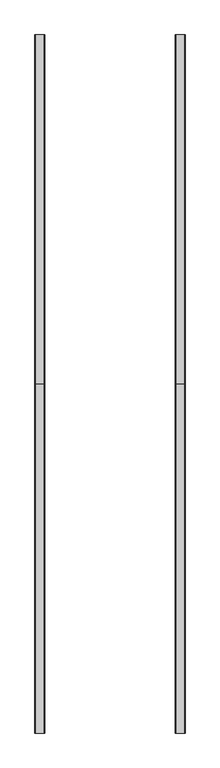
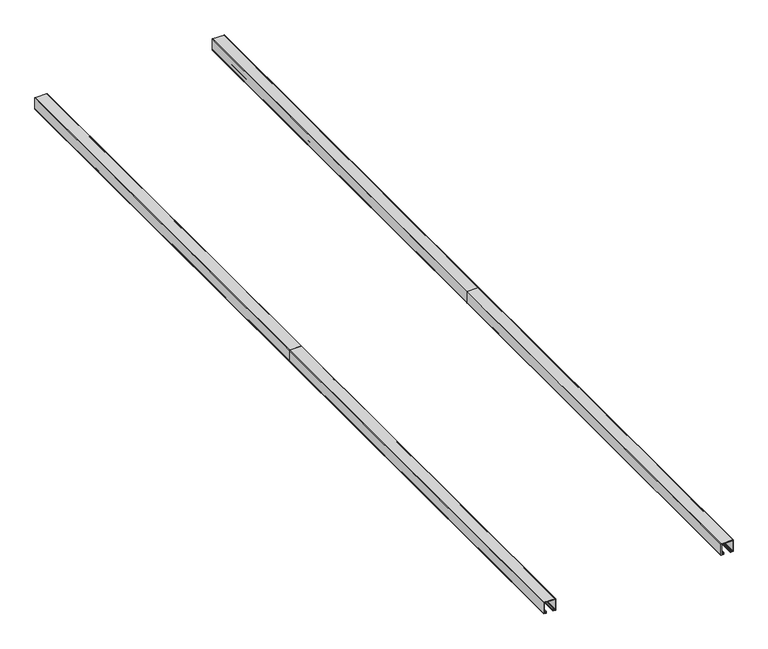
"""IFC4 building model written with IfcOpenShell, lengths in millimetres: proxy geometry, modelo_cirrus 32.3dm."""

from ifc_helpers import new_model, si_unit, point, frame, frame_2d, origin, place, context, project, spatial, polyline, circle_curve, trimmed, segment, composite_curve, outline, extrude, source, transform, mapped, element, save


def generic_models_cc1fa2ff(model_context):
    return source(origin(), model_context, "Body", "SweptSolid", [
        extrude(outline(composite_curve([segment(polyline([(273.8657165, -1040.3998374), (277.4657165, -1040.3998374)]), True, "CONTINUOUS"), segment(trimmed(circle_curve(frame_2d((277.4657165, -1041.3998374)), 1.0), [point((277.4657165, -1040.3998374))], [point((277.4657165, -1042.3998374))], False, "CARTESIAN"), True, "CONTINUOUS"), segment(polyline([(277.4657165, -1042.3998374), (272.3657165, -1042.3998374)]), True, "CONTINUOUS"), segment(trimmed(circle_curve(frame_2d((272.3657165, -1041.3998374)), 1.0), [point((272.3657165, -1042.3998374))], [point((271.3657165, -1041.3998374))], False, "CARTESIAN"), True, "CONTINUOUS"), segment(polyline([(271.3657165, -1041.3998374), (271.3657165, -1033.8498374)]), True, "CONTINUOUS"), segment(trimmed(circle_curve(frame_2d((272.3657165, -1033.8498374)), 1.0), [point((271.3657165, -1033.8498374))], [point((272.3657165, -1032.8498374))], False, "CARTESIAN"), True, "CONTINUOUS"), segment(polyline([(272.3657165, -1032.8498374), (311.6657165, -1032.8498374)]), True, "CONTINUOUS"), segment(trimmed(circle_curve(frame_2d((311.6657165, -1033.8498374)), 1.0), [point((311.6657165, -1032.8498374))], [point((312.6657165, -1033.8498374))], False, "CARTESIAN"), True, "CONTINUOUS"), segment(polyline([(312.6657165, -1033.8498374), (312.6657165, -1073.1498374)]), True, "CONTINUOUS"), segment(trimmed(circle_curve(frame_2d((311.6657165, -1073.1498374)), 1.0), [point((312.6657165, -1073.1498374))], [point((311.6657165, -1074.1498374))], False, "CARTESIAN"), True, "CONTINUOUS"), segment(polyline([(311.6657165, -1074.1498374), (272.3657165, -1074.1498374)]), True, "CONTINUOUS"), segment(trimmed(circle_curve(frame_2d((272.3657165, -1073.1498374)), 1.0), [point((272.3657165, -1074.1498374))], [point((271.3657165, -1073.1498374))], False, "CARTESIAN"), True, "CONTINUOUS"), segment(polyline([(271.3657165, -1073.1498374), (271.3657165, -1065.5998374)]), True, "CONTINUOUS"), segment(trimmed(circle_curve(frame_2d((272.3657165, -1065.5998374)), 1.0), [point((271.3657165, -1065.5998374))], [point((272.3657165, -1064.5998374))], False, "CARTESIAN"), True, "CONTINUOUS"), segment(polyline([(272.3657165, -1064.5998374), (277.4657165, -1064.5998374)]), True, "CONTINUOUS"), segment(trimmed(circle_curve(frame_2d((277.4657165, -1065.5998374)), 1.0), [point((277.4657165, -1064.5998374))], [point((277.4657165, -1066.5998374))], False, "CARTESIAN"), True, "CONTINUOUS"), segment(polyline([(277.4657165, -1066.5998374), (273.8657165, -1066.5998374)]), True, "CONTINUOUS"), segment(trimmed(circle_curve(frame_2d((273.8657165, -1067.0998374)), 0.5), [point((273.8657165, -1066.5998374))], [point((273.3657165, -1067.0998374))], True, "CARTESIAN"), True, "CONTINUOUS"), segment(polyline([(273.3657165, -1067.0998374), (273.3657165, -1071.6498374)]), True, "CONTINUOUS"), segment(trimmed(circle_curve(frame_2d((273.8657165, -1071.6498374)), 0.5), [point((273.3657165, -1071.6498374))], [point((273.8657165, -1072.1498374))], True, "CARTESIAN"), True, "CONTINUOUS"), segment(polyline([(273.8657165, -1072.1498374), (310.1657165, -1072.1498374)]), True, "CONTINUOUS"), segment(trimmed(circle_curve(frame_2d((310.1657165, -1071.6498374)), 0.5), [point((310.1657165, -1072.1498374))], [point((310.6657165, -1071.6498374))], True, "CARTESIAN"), True, "CONTINUOUS"), segment(polyline([(310.6657165, -1071.6498374), (310.6657165, -1035.3498374)]), True, "CONTINUOUS"), segment(trimmed(circle_curve(frame_2d((310.1657165, -1035.3498374)), 0.5), [point((310.6657165, -1035.3498374))], [point((310.1657165, -1034.8498374))], True, "CARTESIAN"), True, "CONTINUOUS"), segment(polyline([(310.1657165, -1034.8498374), (273.8657165, -1034.8498374)]), True, "CONTINUOUS"), segment(trimmed(circle_curve(frame_2d((273.8657165, -1035.3498374)), 0.5), [point((273.8657165, -1034.8498374))], [point((273.3657165, -1035.3498374))], True, "CARTESIAN"), True, "CONTINUOUS"), segment(polyline([(273.3657165, -1035.3498374), (273.3657165, -1039.8998374)]), True, "CONTINUOUS"), segment(trimmed(circle_curve(frame_2d((273.8657165, -1039.8998374)), 0.5), [point((273.3657165, -1039.8998374))], [point((273.8657165, -1040.3998374))], True, "CARTESIAN"), True, "CONTINUOUS")], self_intersect=False)), frame((0.0, 1715.530445, 0.0), z_axis=(0.0, 1.0, 0.0), x_axis=(0.0, 0.0, 1.0)), (0.0, 0.0, 1.0), 1498.6),
        extrude(outline(composite_curve([segment(polyline([(273.8657165, -437.1498374), (277.4657165, -437.1498374)]), True, "CONTINUOUS"), segment(trimmed(circle_curve(frame_2d((277.4657165, -438.1498374)), 1.0), [point((277.4657165, -437.1498374))], [point((277.4657165, -439.1498374))], False, "CARTESIAN"), True, "CONTINUOUS"), segment(polyline([(277.4657165, -439.1498374), (272.3657165, -439.1498374)]), True, "CONTINUOUS"), segment(trimmed(circle_curve(frame_2d((272.3657165, -438.1498374)), 1.0), [point((272.3657165, -439.1498374))], [point((271.3657165, -438.1498374))], False, "CARTESIAN"), True, "CONTINUOUS"), segment(polyline([(271.3657165, -438.1498374), (271.3657165, -430.5998374)]), True, "CONTINUOUS"), segment(trimmed(circle_curve(frame_2d((272.3657165, -430.5998374)), 1.0), [point((271.3657165, -430.5998374))], [point((272.3657165, -429.5998374))], False, "CARTESIAN"), True, "CONTINUOUS"), segment(polyline([(272.3657165, -429.5998374), (311.6657165, -429.5998374)]), True, "CONTINUOUS"), segment(trimmed(circle_curve(frame_2d((311.6657165, -430.5998374)), 1.0), [point((311.6657165, -429.5998374))], [point((312.6657165, -430.5998374))], False, "CARTESIAN"), True, "CONTINUOUS"), segment(polyline([(312.6657165, -430.5998374), (312.6657165, -469.8998374)]), True, "CONTINUOUS"), segment(trimmed(circle_curve(frame_2d((311.6657165, -469.8998374)), 1.0), [point((312.6657165, -469.8998374))], [point((311.6657165, -470.8998374))], False, "CARTESIAN"), True, "CONTINUOUS"), segment(polyline([(311.6657165, -470.8998374), (272.3657165, -470.8998374)]), True, "CONTINUOUS"), segment(trimmed(circle_curve(frame_2d((272.3657165, -469.8998374)), 1.0), [point((272.3657165, -470.8998374))], [point((271.3657165, -469.8998374))], False, "CARTESIAN"), True, "CONTINUOUS"), segment(polyline([(271.3657165, -469.8998374), (271.3657165, -462.3498374)]), True, "CONTINUOUS"), segment(trimmed(circle_curve(frame_2d((272.3657165, -462.3498374)), 1.0), [point((271.3657165, -462.3498374))], [point((272.3657165, -461.3498374))], False, "CARTESIAN"), True, "CONTINUOUS"), segment(polyline([(272.3657165, -461.3498374), (277.4657165, -461.3498374)]), True, "CONTINUOUS"), segment(trimmed(circle_curve(frame_2d((277.4657165, -462.3498374)), 1.0), [point((277.4657165, -461.3498374))], [point((277.4657165, -463.3498374))], False, "CARTESIAN"), True, "CONTINUOUS"), segment(polyline([(277.4657165, -463.3498374), (273.8657165, -463.3498374)]), True, "CONTINUOUS"), segment(trimmed(circle_curve(frame_2d((273.8657165, -463.8498374)), 0.5), [point((273.8657165, -463.3498374))], [point((273.3657165, -463.8498374))], True, "CARTESIAN"), True, "CONTINUOUS"), segment(polyline([(273.3657165, -463.8498374), (273.3657165, -468.3998374)]), True, "CONTINUOUS"), segment(trimmed(circle_curve(frame_2d((273.8657165, -468.3998374)), 0.5), [point((273.3657165, -468.3998374))], [point((273.8657165, -468.8998374))], True, "CARTESIAN"), True, "CONTINUOUS"), segment(polyline([(273.8657165, -468.8998374), (310.1657165, -468.8998374)]), True, "CONTINUOUS"), segment(trimmed(circle_curve(frame_2d((310.1657165, -468.3998374)), 0.5), [point((310.1657165, -468.8998374))], [point((310.6657165, -468.3998374))], True, "CARTESIAN"), True, "CONTINUOUS"), segment(polyline([(310.6657165, -468.3998374), (310.6657165, -432.0998374)]), True, "CONTINUOUS"), segment(trimmed(circle_curve(frame_2d((310.1657165, -432.0998374)), 0.5), [point((310.6657165, -432.0998374))], [point((310.1657165, -431.5998374))], True, "CARTESIAN"), True, "CONTINUOUS"), segment(polyline([(310.1657165, -431.5998374), (273.8657165, -431.5998374)]), True, "CONTINUOUS"), segment(trimmed(circle_curve(frame_2d((273.8657165, -432.0998374)), 0.5), [point((273.8657165, -431.5998374))], [point((273.3657165, -432.0998374))], True, "CARTESIAN"), True, "CONTINUOUS"), segment(polyline([(273.3657165, -432.0998374), (273.3657165, -436.6498374)]), True, "CONTINUOUS"), segment(trimmed(circle_curve(frame_2d((273.8657165, -436.6498374)), 0.5), [point((273.3657165, -436.6498374))], [point((273.8657165, -437.1498374))], True, "CARTESIAN"), True, "CONTINUOUS")], self_intersect=False)), frame((0.0, 1715.530445, 0.0), z_axis=(0.0, 1.0, 0.0), x_axis=(0.0, 0.0, 1.0)), (0.0, 0.0, 1.0), 1498.6),
        extrude(outline(composite_curve([segment(polyline([(273.8657165, -437.1498374), (277.4657165, -437.1498374)]), True, "CONTINUOUS"), segment(trimmed(circle_curve(frame_2d((277.4657165, -438.1498374)), 1.0), [point((277.4657165, -437.1498374))], [point((277.4657165, -439.1498374))], False, "CARTESIAN"), True, "CONTINUOUS"), segment(polyline([(277.4657165, -439.1498374), (272.3657165, -439.1498374)]), True, "CONTINUOUS"), segment(trimmed(circle_curve(frame_2d((272.3657165, -438.1498374)), 1.0), [point((272.3657165, -439.1498374))], [point((271.3657165, -438.1498374))], False, "CARTESIAN"), True, "CONTINUOUS"), segment(polyline([(271.3657165, -438.1498374), (271.3657165, -430.5998374)]), True, "CONTINUOUS"), segment(trimmed(circle_curve(frame_2d((272.3657165, -430.5998374)), 1.0), [point((271.3657165, -430.5998374))], [point((272.3657165, -429.5998374))], False, "CARTESIAN"), True, "CONTINUOUS"), segment(polyline([(272.3657165, -429.5998374), (311.6657165, -429.5998374)]), True, "CONTINUOUS"), segment(trimmed(circle_curve(frame_2d((311.6657165, -430.5998374)), 1.0), [point((311.6657165, -429.5998374))], [point((312.6657165, -430.5998374))], False, "CARTESIAN"), True, "CONTINUOUS"), segment(polyline([(312.6657165, -430.5998374), (312.6657165, -469.8998374)]), True, "CONTINUOUS"), segment(trimmed(circle_curve(frame_2d((311.6657165, -469.8998374)), 1.0), [point((312.6657165, -469.8998374))], [point((311.6657165, -470.8998374))], False, "CARTESIAN"), True, "CONTINUOUS"), segment(polyline([(311.6657165, -470.8998374), (272.3657165, -470.8998374)]), True, "CONTINUOUS"), segment(trimmed(circle_curve(frame_2d((272.3657165, -469.8998374)), 1.0), [point((272.3657165, -470.8998374))], [point((271.3657165, -469.8998374))], False, "CARTESIAN"), True, "CONTINUOUS"), segment(polyline([(271.3657165, -469.8998374), (271.3657165, -462.3498374)]), True, "CONTINUOUS"), segment(trimmed(circle_curve(frame_2d((272.3657165, -462.3498374)), 1.0), [point((271.3657165, -462.3498374))], [point((272.3657165, -461.3498374))], False, "CARTESIAN"), True, "CONTINUOUS"), segment(polyline([(272.3657165, -461.3498374), (277.4657165, -461.3498374)]), True, "CONTINUOUS"), segment(trimmed(circle_curve(frame_2d((277.4657165, -462.3498374)), 1.0), [point((277.4657165, -461.3498374))], [point((277.4657165, -463.3498374))], False, "CARTESIAN"), True, "CONTINUOUS"), segment(polyline([(277.4657165, -463.3498374), (273.8657165, -463.3498374)]), True, "CONTINUOUS"), segment(trimmed(circle_curve(frame_2d((273.8657165, -463.8498374)), 0.5), [point((273.8657165, -463.3498374))], [point((273.3657165, -463.8498374))], True, "CARTESIAN"), True, "CONTINUOUS"), segment(polyline([(273.3657165, -463.8498374), (273.3657165, -468.3998374)]), True, "CONTINUOUS"), segment(trimmed(circle_curve(frame_2d((273.8657165, -468.3998374)), 0.5), [point((273.3657165, -468.3998374))], [point((273.8657165, -468.8998374))], True, "CARTESIAN"), True, "CONTINUOUS"), segment(polyline([(273.8657165, -468.8998374), (310.1657165, -468.8998374)]), True, "CONTINUOUS"), segment(trimmed(circle_curve(frame_2d((310.1657165, -468.3998374)), 0.5), [point((310.1657165, -468.8998374))], [point((310.6657165, -468.3998374))], True, "CARTESIAN"), True, "CONTINUOUS"), segment(polyline([(310.6657165, -468.3998374), (310.6657165, -432.0998374)]), True, "CONTINUOUS"), segment(trimmed(circle_curve(frame_2d((310.1657165, -432.0998374)), 0.5), [point((310.6657165, -432.0998374))], [point((310.1657165, -431.5998374))], True, "CARTESIAN"), True, "CONTINUOUS"), segment(polyline([(310.1657165, -431.5998374), (273.8657165, -431.5998374)]), True, "CONTINUOUS"), segment(trimmed(circle_curve(frame_2d((273.8657165, -432.0998374)), 0.5), [point((273.8657165, -431.5998374))], [point((273.3657165, -432.0998374))], True, "CARTESIAN"), True, "CONTINUOUS"), segment(polyline([(273.3657165, -432.0998374), (273.3657165, -436.6498374)]), True, "CONTINUOUS"), segment(trimmed(circle_curve(frame_2d((273.8657165, -436.6498374)), 0.5), [point((273.3657165, -436.6498374))], [point((273.8657165, -437.1498374))], True, "CARTESIAN"), True, "CONTINUOUS")], self_intersect=False)), frame((0.0, 216.930445, 0.0), z_axis=(0.0, 1.0, 0.0), x_axis=(0.0, 0.0, 1.0)), (0.0, 0.0, 1.0), 1498.6),
        extrude(outline(composite_curve([segment(polyline([(273.8657165, -1040.3998374), (277.4657165, -1040.3998374)]), True, "CONTINUOUS"), segment(trimmed(circle_curve(frame_2d((277.4657165, -1041.3998374)), 1.0), [point((277.4657165, -1040.3998374))], [point((277.4657165, -1042.3998374))], False, "CARTESIAN"), True, "CONTINUOUS"), segment(polyline([(277.4657165, -1042.3998374), (272.3657165, -1042.3998374)]), True, "CONTINUOUS"), segment(trimmed(circle_curve(frame_2d((272.3657165, -1041.3998374)), 1.0), [point((272.3657165, -1042.3998374))], [point((271.3657165, -1041.3998374))], False, "CARTESIAN"), True, "CONTINUOUS"), segment(polyline([(271.3657165, -1041.3998374), (271.3657165, -1033.8498374)]), True, "CONTINUOUS"), segment(trimmed(circle_curve(frame_2d((272.3657165, -1033.8498374)), 1.0), [point((271.3657165, -1033.8498374))], [point((272.3657165, -1032.8498374))], False, "CARTESIAN"), True, "CONTINUOUS"), segment(polyline([(272.3657165, -1032.8498374), (311.6657165, -1032.8498374)]), True, "CONTINUOUS"), segment(trimmed(circle_curve(frame_2d((311.6657165, -1033.8498374)), 1.0), [point((311.6657165, -1032.8498374))], [point((312.6657165, -1033.8498374))], False, "CARTESIAN"), True, "CONTINUOUS"), segment(polyline([(312.6657165, -1033.8498374), (312.6657165, -1073.1498374)]), True, "CONTINUOUS"), segment(trimmed(circle_curve(frame_2d((311.6657165, -1073.1498374)), 1.0), [point((312.6657165, -1073.1498374))], [point((311.6657165, -1074.1498374))], False, "CARTESIAN"), True, "CONTINUOUS"), segment(polyline([(311.6657165, -1074.1498374), (272.3657165, -1074.1498374)]), True, "CONTINUOUS"), segment(trimmed(circle_curve(frame_2d((272.3657165, -1073.1498374)), 1.0), [point((272.3657165, -1074.1498374))], [point((271.3657165, -1073.1498374))], False, "CARTESIAN"), True, "CONTINUOUS"), segment(polyline([(271.3657165, -1073.1498374), (271.3657165, -1065.5998374)]), True, "CONTINUOUS"), segment(trimmed(circle_curve(frame_2d((272.3657165, -1065.5998374)), 1.0), [point((271.3657165, -1065.5998374))], [point((272.3657165, -1064.5998374))], False, "CARTESIAN"), True, "CONTINUOUS"), segment(polyline([(272.3657165, -1064.5998374), (277.4657165, -1064.5998374)]), True, "CONTINUOUS"), segment(trimmed(circle_curve(frame_2d((277.4657165, -1065.5998374)), 1.0), [point((277.4657165, -1064.5998374))], [point((277.4657165, -1066.5998374))], False, "CARTESIAN"), True, "CONTINUOUS"), segment(polyline([(277.4657165, -1066.5998374), (273.8657165, -1066.5998374)]), True, "CONTINUOUS"), segment(trimmed(circle_curve(frame_2d((273.8657165, -1067.0998374)), 0.5), [point((273.8657165, -1066.5998374))], [point((273.3657165, -1067.0998374))], True, "CARTESIAN"), True, "CONTINUOUS"), segment(polyline([(273.3657165, -1067.0998374), (273.3657165, -1071.6498374)]), True, "CONTINUOUS"), segment(trimmed(circle_curve(frame_2d((273.8657165, -1071.6498374)), 0.5), [point((273.3657165, -1071.6498374))], [point((273.8657165, -1072.1498374))], True, "CARTESIAN"), True, "CONTINUOUS"), segment(polyline([(273.8657165, -1072.1498374), (310.1657165, -1072.1498374)]), True, "CONTINUOUS"), segment(trimmed(circle_curve(frame_2d((310.1657165, -1071.6498374)), 0.5), [point((310.1657165, -1072.1498374))], [point((310.6657165, -1071.6498374))], True, "CARTESIAN"), True, "CONTINUOUS"), segment(polyline([(310.6657165, -1071.6498374), (310.6657165, -1035.3498374)]), True, "CONTINUOUS"), segment(trimmed(circle_curve(frame_2d((310.1657165, -1035.3498374)), 0.5), [point((310.6657165, -1035.3498374))], [point((310.1657165, -1034.8498374))], True, "CARTESIAN"), True, "CONTINUOUS"), segment(polyline([(310.1657165, -1034.8498374), (273.8657165, -1034.8498374)]), True, "CONTINUOUS"), segment(trimmed(circle_curve(frame_2d((273.8657165, -1035.3498374)), 0.5), [point((273.8657165, -1034.8498374))], [point((273.3657165, -1035.3498374))], True, "CARTESIAN"), True, "CONTINUOUS"), segment(polyline([(273.3657165, -1035.3498374), (273.3657165, -1039.8998374)]), True, "CONTINUOUS"), segment(trimmed(circle_curve(frame_2d((273.8657165, -1039.8998374)), 0.5), [point((273.3657165, -1039.8998374))], [point((273.8657165, -1040.3998374))], True, "CARTESIAN"), True, "CONTINUOUS")], self_intersect=False)), frame((0.0, 216.930445, 0.0), z_axis=(0.0, 1.0, 0.0), x_axis=(0.0, 0.0, 1.0)), (0.0, 0.0, 1.0), 1498.6),
    ])


if __name__ == "__main__":
    model = new_model("IFC4")
    model_context = context("Model", 3, world=origin())
    ifc_project = project(units=[si_unit("LENGTHUNIT", "METRE", prefix="MILLI")], contexts=[model_context])
    site = spatial("IfcSite", under=ifc_project)
    building = spatial("IfcBuilding", under=site)
    placement = place(None, origin())
    generic_models_shape = generic_models_cc1fa2ff(model_context)
    element("IfcBuildingElementProxy", 1, Name="modelo_cirrus 32.3dm", ObjectType="modelo_cirrus 32.3dm", at=placement, inside=building, context=model_context, shape_type="MappedRepresentation", body=[
        mapped(generic_models_shape, transform((0.0, 0.0, 0.0), x_axis=(1.0, 0.0, 0.0), y_axis=(0.0, 1.0, 0.0), z_axis=(0.0, 0.0, 1.0))),
    ])
    save(model, "model.ifc")
